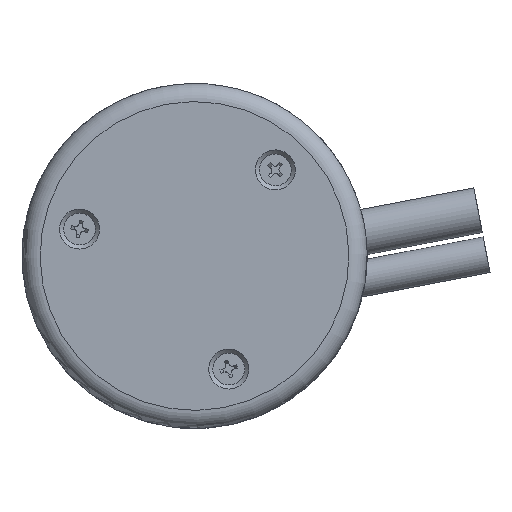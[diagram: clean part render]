
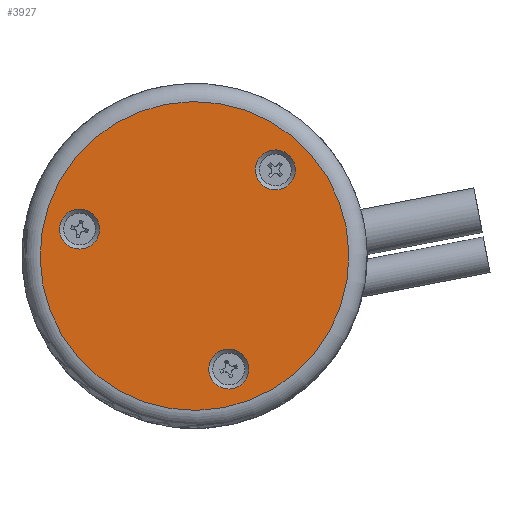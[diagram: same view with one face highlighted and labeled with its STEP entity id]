
A CAD part, front view. The second image highlights one B-rep face of the part: STEP entity #3927.
In plain terms, the highlighted planar face has unit normal (0, -1, 0).
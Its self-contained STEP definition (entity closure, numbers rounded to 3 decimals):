
#2 = FACE_OUTER_BOUND ( 'NONE', #3765, .T. ) ;
#77 = EDGE_LOOP ( 'NONE', ( #3883 ) ) ;
#243 = EDGE_LOOP ( 'NONE', ( #5450 ) ) ;
#335 = CIRCLE ( 'NONE', #4213, 17. ) ;
#402 = DIRECTION ( 'NONE',  ( 0., -1., 0. ) ) ;
#651 = DIRECTION ( 'NONE',  ( 0., -1., 0. ) ) ;
#673 = ORIENTED_EDGE ( 'NONE', *, *, #5939, .F. ) ;
#756 = DIRECTION ( 'NONE',  ( 1., 0., 0.014 ) ) ;
#838 = FACE_BOUND ( 'NONE', #77, .T. ) ;
#886 = DIRECTION ( 'NONE',  ( 0., -1., 0. ) ) ;
#896 = PLANE ( 'NONE',  #5954 ) ;
#915 = VERTEX_POINT ( 'NONE', #2384 ) ;
#1363 = VERTEX_POINT ( 'NONE', #3767 ) ;
#1480 = CIRCLE ( 'NONE', #3973, 2.2 ) ;
#1729 = EDGE_CURVE ( 'NONE', #915, #915, #1480, .T. ) ;
#1810 = CARTESIAN_POINT ( 'NONE',  ( -13.5, 0., 13.5 ) ) ;
#2258 = DIRECTION ( 'NONE',  ( 1., 0., 0.014 ) ) ;
#2384 = CARTESIAN_POINT ( 'NONE',  ( -23.958, 0., 16.494 ) ) ;
#2733 = FACE_BOUND ( 'NONE', #5666, .T. ) ;
#2793 = DIRECTION ( 'NONE',  ( 1., 0., 0.014 ) ) ;
#3029 = EDGE_CURVE ( 'NONE', #3824, #3824, #335, .T. ) ;
#3292 = DIRECTION ( 'NONE',  ( 1., 0., 0.014 ) ) ;
#3294 = CARTESIAN_POINT ( 'NONE',  ( -4.606, 0., 22.981 ) ) ;
#3356 = CARTESIAN_POINT ( 'NONE',  ( 3.498, 0., 13.746 ) ) ;
#3739 = CARTESIAN_POINT ( 'NONE',  ( -13.5, 0., 13.5 ) ) ;
#3765 = EDGE_LOOP ( 'NONE', ( #4215 ) ) ;
#3767 = CARTESIAN_POINT ( 'NONE',  ( -7.536, 0., 1.089 ) ) ;
#3768 = CIRCLE ( 'NONE', #3968, 2.2 ) ;
#3824 = VERTEX_POINT ( 'NONE', #3356 ) ;
#3883 = ORIENTED_EDGE ( 'NONE', *, *, #4921, .F. ) ;
#3927 = ADVANCED_FACE ( 'NONE', ( #2733, #838, #4207, #2 ), #896, .T. ) ;
#3968 = AXIS2_PLACEMENT_3D ( 'NONE', #4446, #651, #4352 ) ;
#3973 = AXIS2_PLACEMENT_3D ( 'NONE', #4165, #4619, #3292 ) ;
#4146 = VERTEX_POINT ( 'NONE', #4234 ) ;
#4165 = CARTESIAN_POINT ( 'NONE',  ( -26.158, 0., 16.462 ) ) ;
#4207 = FACE_BOUND ( 'NONE', #243, .T. ) ;
#4213 = AXIS2_PLACEMENT_3D ( 'NONE', #1810, #5115, #756 ) ;
#4215 = ORIENTED_EDGE ( 'NONE', *, *, #3029, .T. ) ;
#4234 = CARTESIAN_POINT ( 'NONE',  ( -2.406, 0., 23.013 ) ) ;
#4352 = DIRECTION ( 'NONE',  ( 1., 0., 0.014 ) ) ;
#4362 = AXIS2_PLACEMENT_3D ( 'NONE', #3294, #886, #2258 ) ;
#4446 = CARTESIAN_POINT ( 'NONE',  ( -9.736, 0., 1.057 ) ) ;
#4619 = DIRECTION ( 'NONE',  ( 0., -1., 0. ) ) ;
#4921 = EDGE_CURVE ( 'NONE', #4146, #4146, #5042, .T. ) ;
#5042 = CIRCLE ( 'NONE', #4362, 2.2 ) ;
#5115 = DIRECTION ( 'NONE',  ( 0., -1., 0. ) ) ;
#5450 = ORIENTED_EDGE ( 'NONE', *, *, #1729, .F. ) ;
#5666 = EDGE_LOOP ( 'NONE', ( #673 ) ) ;
#5939 = EDGE_CURVE ( 'NONE', #1363, #1363, #3768, .T. ) ;
#5954 = AXIS2_PLACEMENT_3D ( 'NONE', #3739, #402, #2793 ) ;
